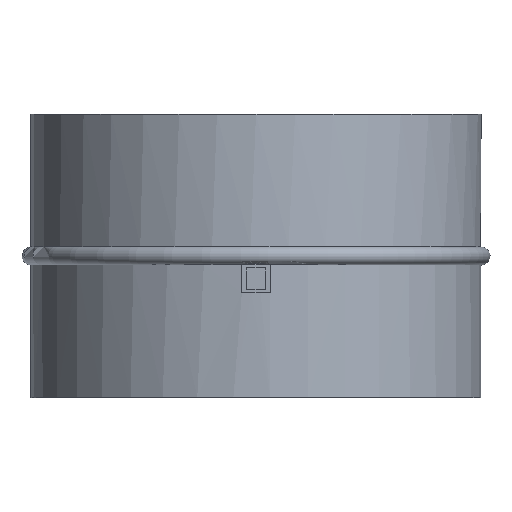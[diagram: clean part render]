
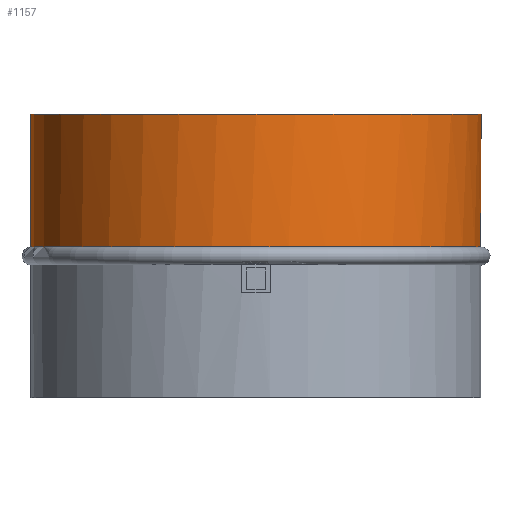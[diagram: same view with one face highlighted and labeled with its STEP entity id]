
A CAD part, top view. The second image highlights one B-rep face of the part: STEP entity #1157.
In plain terms, the highlighted cylindrical face has radius 79.5 mm (diameter 159 mm), a full revolution.
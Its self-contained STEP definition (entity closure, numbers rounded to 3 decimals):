
#64=CYLINDRICAL_SURFACE('',#1294,79.5);
#72=FACE_BOUND('',#262,.T.);
#123=CIRCLE('',#1290,79.5);
#125=CIRCLE('',#1295,79.5);
#189=FACE_OUTER_BOUND('',#261,.T.);
#261=EDGE_LOOP('',(#1049));
#262=EDGE_LOOP('',(#1050));
#549=VERTEX_POINT('',#2081);
#551=VERTEX_POINT('',#2088);
#716=EDGE_CURVE('',#549,#549,#123,.T.);
#718=EDGE_CURVE('',#551,#551,#125,.T.);
#1049=ORIENTED_EDGE('',*,*,#716,.T.);
#1050=ORIENTED_EDGE('',*,*,#718,.F.);
#1157=ADVANCED_FACE('',(#189,#72),#64,.T.);
#1290=AXIS2_PLACEMENT_3D('',#2082,#1634,#1635);
#1294=AXIS2_PLACEMENT_3D('',#2087,#1642,#1643);
#1295=AXIS2_PLACEMENT_3D('',#2089,#1644,#1645);
#1634=DIRECTION('center_axis',(0.,1.,0.));
#1635=DIRECTION('ref_axis',(1.,0.,0.));
#1642=DIRECTION('center_axis',(0.,1.,0.));
#1643=DIRECTION('ref_axis',(1.,0.,0.));
#1644=DIRECTION('center_axis',(0.,1.,0.));
#1645=DIRECTION('ref_axis',(1.,0.,0.));
#2081=CARTESIAN_POINT('',(-79.5,3.18,0.));
#2082=CARTESIAN_POINT('Origin',(0.,3.18,0.));
#2087=CARTESIAN_POINT('Origin',(0.,0.,0.));
#2088=CARTESIAN_POINT('',(-79.5,50.,0.));
#2089=CARTESIAN_POINT('Origin',(0.,50.,0.));
